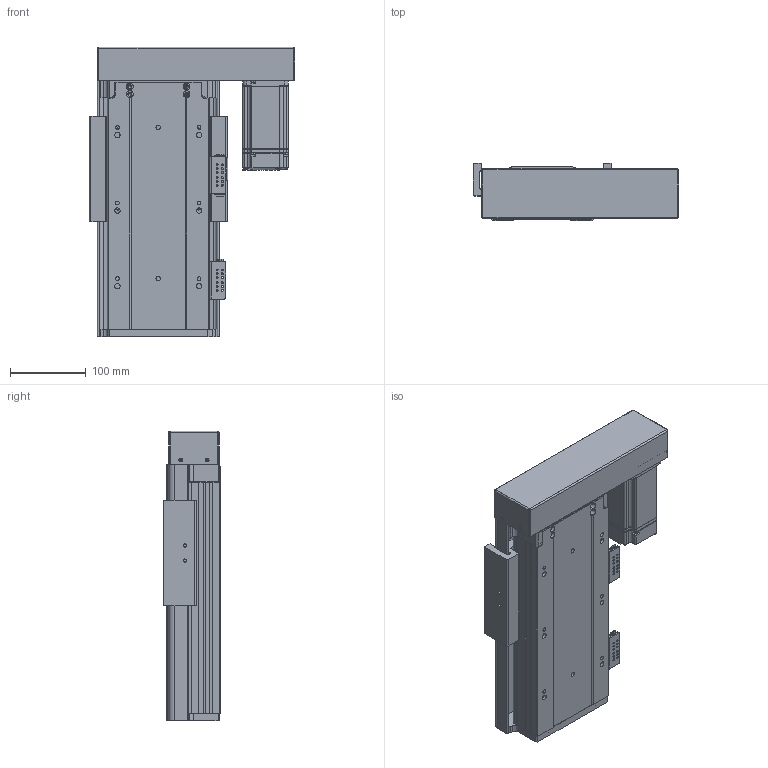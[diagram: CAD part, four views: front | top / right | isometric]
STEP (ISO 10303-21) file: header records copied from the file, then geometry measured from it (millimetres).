
FILE_DESCRIPTION (( 'STEP AP203' ), '1' );
FILE_NAME ('RY140FB-L2010-300-RK.SLDASM_100.step', '2021-02-23T02:40:40', ( '盈信电脑' ), ( '东莞市道滘镇水果街19号' ), 'SwSTEP 2.0', 'SolidWorks 2012', '' );
FILE_SCHEMA (( 'CONFIG_CONTROL_DESIGN' ));
Length unit declared in the file: millimetre
Products named in the file (17): RY140FB-L2010-300-RK.SLDASM_100; RY140FB-左右折电机安装板; RY140FB-酘衵殏萇儂欶; RY140-674嫖萇耀輸; RY140FB-覜茼え; 覜茼ん674; RY140直线电机感应器674光电安装座; 15; RY140FB-300蛌殏奻裔啣-RK_100; RY140FB-20佪裝臏賑輸; 侂狟400W侜督萇儂; 滅袉蝶18-24; 滅袉蝶18-10; RY140FB-綴裔啣; RY140FB-转折电机端支撑座(7002); RY140FB-300蛌殏倰第菁釱-RK_100
Assembly tree (20 placements, depth 3):
  RY140FB-L2010-300-RK.SLDASM_100
    RY140FB-300蛌殏倰第菁釱-RK_100
    RY140FB-綴裔啣
    滅袉蝶18-24  x2
    滅袉蝶18-10
    RY140FB-转折电机端支撑座(7002)
    侂狟400W侜督萇儂
      15
    RY140FB-20佪裝臏賑輸
    RY140FB-300蛌殏奻裔啣-RK_100
    RY140-674嫖萇耀輸
      覜茼ん674
      RY140直线电机感应器674光电安装座
    RY140-674嫖萇耀輸
      覜茼ん674  x2
      RY140直线电机感应器674光电安装座
    RY140FB-覜茼え
    RY140FB-左右折电机安装板
    RY140FB-酘衵殏萇儂欶
Bounding box: 271.3 x 75 x 383.2 mm (x, y, z)
Volume: 2287295.8 mm3; surface area: 710659.8 mm2
Topology: 17 solids, 17 shells, 1618 faces, 4355 edges, 2781 vertices
Faces by surface type: cylinder 733, plane 723, cone 134, bspline 28
Entity records: 47709 total; most frequent: CARTESIAN_POINT 9237, DIRECTION 7832, ORIENTED_EDGE 7490, EDGE_CURVE 3745, AXIS2_PLACEMENT_3D 2800, VERTEX_POINT 2449, LINE 2232, VECTOR 2232
